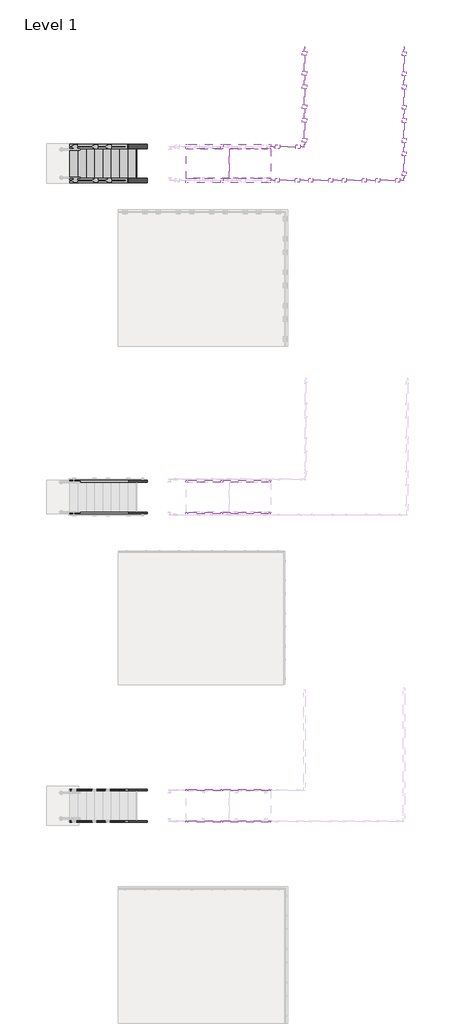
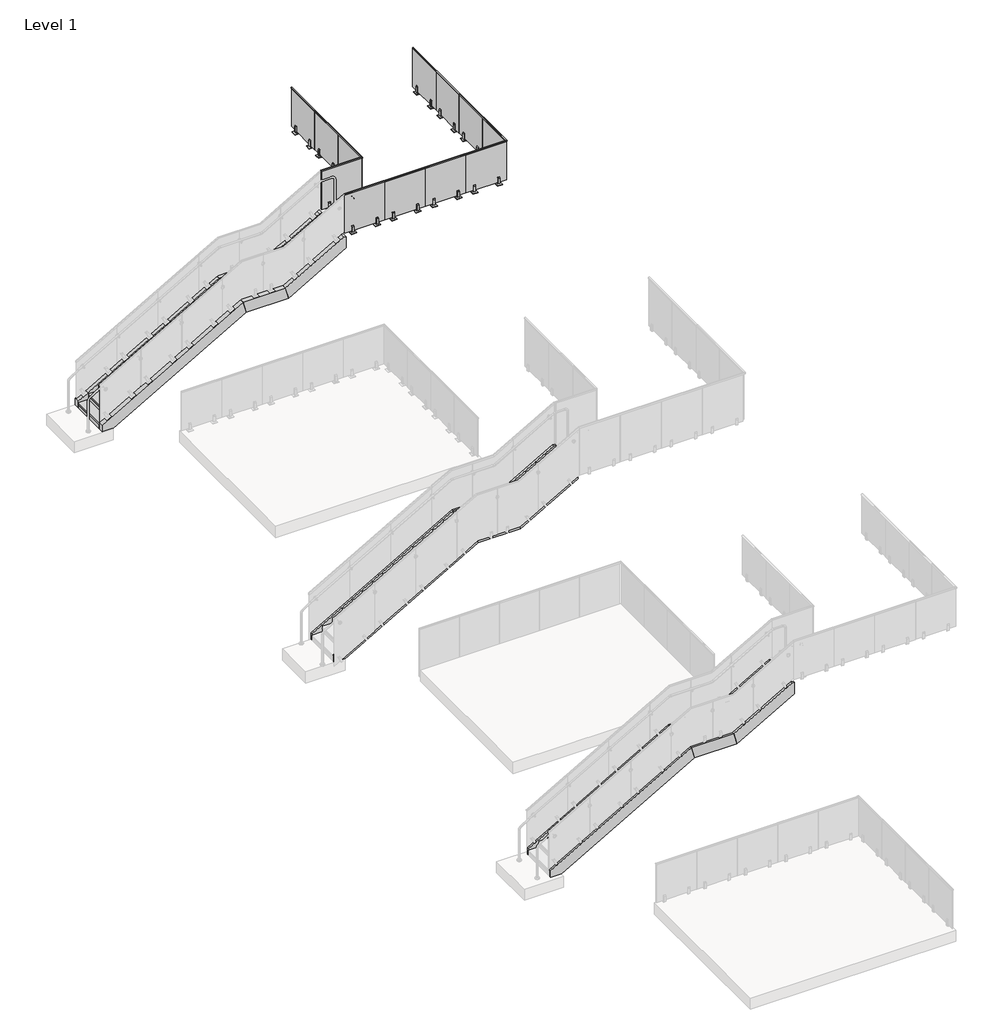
# One storey, part 17 of 17: 18 members, 2 railings, 2 stair flights, 1 slab.
"""IFC4 building model written with IfcOpenShell, lengths in millimetres."""

from ifc_helpers import new_model, si_unit, frame, origin, place, context, project, spatial, polyline, outline, extrude, transform, mapped, element, save
from components import railing_999654d2, railing_03c17f37, non_monolithic_landing_f3ecc431, stair_flight_18f07dfd, stair_flight_3f810ed6

model = new_model("IFC4")

# Units and contexts
model_context = context("Model", 3, world=origin())
ifc_project = project(units=[si_unit("LENGTHUNIT", "METRE", prefix="MILLI")], contexts=[model_context])

# Site, building, storey
site = spatial("IfcSite", under=ifc_project)
building = spatial("IfcBuilding", under=site)
storey = spatial("IfcBuildingStorey", under=building, Name="Level 1", Elevation=0.0)

# Members
placement = place(None, origin())
element("IfcMember", 1, ObjectType="Stringer - 2\" Width", at=placement, inside=storey, context=model_context, shape_type="SweptSolid", body=[
    extrude(outline(polyline([(179.6072535, 24306.0112561), (0.0, 24306.0112561), (0.0, 24580.4449345), (1916.7928571, 27934.8324345), (2208.8928571, 27857.2610625), (179.6072535, 24306.0112561)])), frame((0.0, -21111.4617549, 0.0), z_axis=(0.0, 1.0, 0.0), x_axis=(0.0, 0.0, 1.0)), (0.0, 0.0, 1.0), 50.8),
])
element("IfcMember", 2, ObjectType="Stringer - 2\" Width", at=placement, inside=storey, context=model_context, shape_type="SweptSolid", body=[
    extrude(outline(polyline([(179.6072535, 24306.0112561), (0.0, 24306.0112561), (0.0, 24580.4449345), (1916.7928571, 27934.8324345), (2208.8928571, 27857.2610625), (179.6072535, 24306.0112561)])), frame((0.0, -22076.6617549, 0.0), z_axis=(0.0, 1.0, 0.0), x_axis=(0.0, 0.0, 1.0)), (0.0, 0.0, 1.0), 50.8),
])
element("IfcMember", 3, ObjectType="Stringer - 2\" Width", at=placement, inside=storey, context=model_context, shape_type="SweptSolid", body=[
    extrude(outline(polyline([(2208.8928571, 28924.0610625), (1916.7928571, 29001.6324345), (2746.037898, 30452.8112561), (3048.0, 30452.8112561), (3048.0, 30392.4985625), (2208.8928571, 28924.0610625)])), frame((0.0, -21111.4617549, 0.0), z_axis=(0.0, 1.0, 0.0), x_axis=(0.0, 0.0, 1.0)), (0.0, 0.0, 1.0), 50.8),
])
element("IfcMember", 4, ObjectType="Stringer - 2\" Width", at=placement, inside=storey, context=model_context, shape_type="SweptSolid", body=[
    extrude(outline(polyline([(2208.8928571, 28924.0610625), (1916.7928571, 29001.6324345), (2746.037898, 30452.8112561), (3048.0, 30452.8112561), (3048.0, 30392.4985625), (2208.8928571, 28924.0610625)])), frame((0.0, -22076.6617549, 0.0), z_axis=(0.0, 1.0, 0.0), x_axis=(0.0, 0.0, 1.0)), (0.0, 0.0, 1.0), 50.8),
])
element("IfcMember", 5, ObjectType="Stringer - 2\" Width", at=placement, inside=storey, context=model_context, shape_type="SweptSolid", body=[
    extrude(outline(polyline([(1916.7928571, 29001.6324345), (2208.8928571, 28924.0610625), (2208.8928571, 27857.2610625), (1916.7928571, 27934.8324345), (1916.7928571, 29001.6324345)])), frame((0.0, -21111.4617549, 0.0), z_axis=(0.0, 1.0, 0.0), x_axis=(0.0, 0.0, 1.0)), (0.0, 0.0, 1.0), 50.8),
])
element("IfcMember", 6, ObjectType="Stringer - 2\" Width", at=placement, inside=storey, context=model_context, shape_type="SweptSolid", body=[
    extrude(outline(polyline([(2208.8928571, 27857.2610625), (1916.7928571, 27934.8324345), (1916.7928571, 29001.6324345), (2208.8928571, 28924.0610625), (2208.8928571, 27857.2610625)])), frame((0.0, -22076.6617549, 0.0), z_axis=(0.0, 1.0, 0.0), x_axis=(0.0, 0.0, 1.0)), (0.0, 0.0, 1.0), 50.8),
])
element("IfcMember", 7, ObjectType="Stringer - 2\" Width", at=placement, inside=storey, context=model_context, shape_type="SweptSolid", body=[
    extrude(outline(polyline([(179.6072535, 24306.0112561), (0.0, 24306.0112561), (0.0, 24580.4449345), (1916.7928571, 27934.8324345), (2208.8928571, 27857.2610625), (179.6072535, 24306.0112561)])), frame((0.0, -11662.6617549, 0.0), z_axis=(0.0, 1.0, 0.0), x_axis=(0.0, 0.0, 1.0)), (0.0, 0.0, 1.0), 50.8),
])
element("IfcMember", 8, ObjectType="Stringer - 2\" Width", at=placement, inside=storey, context=model_context, shape_type="SweptSolid", body=[
    extrude(outline(polyline([(179.6072535, 24306.0112561), (0.0, 24306.0112561), (0.0, 24580.4449345), (1916.7928571, 27934.8324345), (2208.8928571, 27857.2610625), (179.6072535, 24306.0112561)])), frame((0.0, -12627.8617549, 0.0), z_axis=(0.0, 1.0, 0.0), x_axis=(0.0, 0.0, 1.0)), (0.0, 0.0, 1.0), 50.8),
])
element("IfcMember", 9, ObjectType="Stringer - 2\" Width", at=placement, inside=storey, context=model_context, shape_type="SweptSolid", body=[
    extrude(outline(polyline([(2208.8928571, 28924.0610625), (1916.7928571, 29001.6324345), (2746.037898, 30452.8112561), (3048.0, 30452.8112561), (3048.0, 30392.4985625), (2208.8928571, 28924.0610625)])), frame((0.0, -11662.6617549, 0.0), z_axis=(0.0, 1.0, 0.0), x_axis=(0.0, 0.0, 1.0)), (0.0, 0.0, 1.0), 50.8),
])
element("IfcMember", 10, ObjectType="Stringer - 2\" Width", at=placement, inside=storey, context=model_context, shape_type="SweptSolid", body=[
    extrude(outline(polyline([(2208.8928571, 28924.0610625), (1916.7928571, 29001.6324345), (2746.037898, 30452.8112561), (3048.0, 30452.8112561), (3048.0, 30392.4985625), (2208.8928571, 28924.0610625)])), frame((0.0, -12627.8617549, 0.0), z_axis=(0.0, 1.0, 0.0), x_axis=(0.0, 0.0, 1.0)), (0.0, 0.0, 1.0), 50.8),
])
element("IfcMember", 11, ObjectType="Stringer - 2\" Width", at=placement, inside=storey, context=model_context, shape_type="SweptSolid", body=[
    extrude(outline(polyline([(1916.7928571, 29001.6324345), (2208.8928571, 28924.0610625), (2208.8928571, 27857.2610625), (1916.7928571, 27934.8324345), (1916.7928571, 29001.6324345)])), frame((0.0, -11662.6617549, 0.0), z_axis=(0.0, 1.0, 0.0), x_axis=(0.0, 0.0, 1.0)), (0.0, 0.0, 1.0), 50.8),
])
element("IfcMember", 12, ObjectType="Stringer - 2\" Width", at=placement, inside=storey, context=model_context, shape_type="SweptSolid", body=[
    extrude(outline(polyline([(2208.8928571, 27857.2610625), (1916.7928571, 27934.8324345), (1916.7928571, 29001.6324345), (2208.8928571, 28924.0610625), (2208.8928571, 27857.2610625)])), frame((0.0, -12627.8617549, 0.0), z_axis=(0.0, 1.0, 0.0), x_axis=(0.0, 0.0, 1.0)), (0.0, 0.0, 1.0), 50.8),
])
element("IfcMember", 13, ObjectType="Stringer - 2\" Width", at=placement, inside=storey, context=model_context, shape_type="SweptSolid", body=[
    extrude(outline(polyline([(179.6072535, 24306.0112561), (0.0, 24306.0112561), (0.0, 24580.4449345), (1916.7928571, 27934.8324345), (2208.8928571, 27857.2610625), (179.6072535, 24306.0112561)])), frame((0.0, -1451.8617549, 0.0), z_axis=(0.0, 1.0, 0.0), x_axis=(0.0, 0.0, 1.0)), (0.0, 0.0, 1.0), 127.0),
])
element("IfcMember", 14, ObjectType="Stringer - 2\" Width", at=placement, inside=storey, context=model_context, shape_type="SweptSolid", body=[
    extrude(outline(polyline([(179.6072535, 24306.0112561), (0.0, 24306.0112561), (0.0, 24580.4449345), (1916.7928571, 27934.8324345), (2208.8928571, 27857.2610625), (179.6072535, 24306.0112561)])), frame((0.0, -2493.2617549, 0.0), z_axis=(0.0, 1.0, 0.0), x_axis=(0.0, 0.0, 1.0)), (0.0, 0.0, 1.0), 127.0),
])
element("IfcMember", 15, ObjectType="Stringer - 2\" Width", at=placement, inside=storey, context=model_context, shape_type="SweptSolid", body=[
    extrude(outline(polyline([(2208.8928571, 28924.0610625), (1916.7928571, 29001.6324345), (2746.037898, 30452.8112561), (3048.0, 30452.8112561), (3048.0, 30392.4985625), (2208.8928571, 28924.0610625)])), frame((0.0, -1451.8617549, 0.0), z_axis=(0.0, 1.0, 0.0), x_axis=(0.0, 0.0, 1.0)), (0.0, 0.0, 1.0), 127.0),
])
element("IfcMember", 16, ObjectType="Stringer - 2\" Width", at=placement, inside=storey, context=model_context, shape_type="SweptSolid", body=[
    extrude(outline(polyline([(2208.8928571, 28924.0610625), (1916.7928571, 29001.6324345), (2746.037898, 30452.8112561), (3048.0, 30452.8112561), (3048.0, 30392.4985625), (2208.8928571, 28924.0610625)])), frame((0.0, -2493.2617549, 0.0), z_axis=(0.0, 1.0, 0.0), x_axis=(0.0, 0.0, 1.0)), (0.0, 0.0, 1.0), 127.0),
])
element("IfcMember", 17, ObjectType="Stringer - 2\" Width", at=placement, inside=storey, context=model_context, shape_type="SweptSolid", body=[
    extrude(outline(polyline([(1916.7928571, 29001.6324345), (2208.8928571, 28924.0610625), (2208.8928571, 27857.2610625), (1916.7928571, 27934.8324345), (1916.7928571, 29001.6324345)])), frame((0.0, -1451.8617549, 0.0), z_axis=(0.0, 1.0, 0.0), x_axis=(0.0, 0.0, 1.0)), (0.0, 0.0, 1.0), 127.0),
])
element("IfcMember", 18, ObjectType="Stringer - 2\" Width", at=placement, inside=storey, context=model_context, shape_type="SweptSolid", body=[
    extrude(outline(polyline([(2208.8928571, 27857.2610625), (1916.7928571, 27934.8324345), (1916.7928571, 29001.6324345), (2208.8928571, 28924.0610625), (2208.8928571, 27857.2610625)])), frame((0.0, -2493.2617549, 0.0), z_axis=(0.0, 1.0, 0.0), x_axis=(0.0, 0.0, 1.0)), (0.0, 0.0, 1.0), 127.0),
])

# Railings
railing_shape = railing_999654d2(model_context)
element("IfcRailing", 19, ObjectType="VIVA-VISIO-Glass-Concrete Surface Mount-Straight", at=placement, inside=storey, context=model_context, shape_type="MappedRepresentation", body=[
    mapped(railing_shape, transform((0.0, 0.0, 0.0), x_axis=(1.0, 0.0, 0.0), y_axis=(0.0, 1.0, 0.0), z_axis=(0.0, 0.0, 1.0))),
])
railing_2_shape = railing_03c17f37(model_context)
element("IfcRailing", 20, ObjectType="VIVA-VISIO-Glass-Concrete Surface Mount-Straight", at=placement, inside=storey, context=model_context, shape_type="MappedRepresentation", body=[
    mapped(railing_2_shape, transform((0.0, 0.0, 0.0), x_axis=(1.0, 0.0, 0.0), y_axis=(0.0, 1.0, 0.0), z_axis=(0.0, 0.0, 1.0))),
])

# Slab
non_monolithic_landing_shape = non_monolithic_landing_f3ecc431(model_context)
element("IfcSlab", 21, ObjectType="Non-Monolithic Landing", at=placement, inside=storey, context=model_context, shape_type="MappedRepresentation", body=[
    mapped(non_monolithic_landing_shape, transform((0.0, 0.0, 0.0), x_axis=(1.0, 0.0, 0.0), y_axis=(0.0, 1.0, 0.0), z_axis=(0.0, 0.0, 1.0))),
])

# Stair flights
stair_flight_shape = stair_flight_18f07dfd(model_context)
element("IfcStairFlight", 22, ObjectType="2\" Tread 1/4\" Riser", at=placement, inside=storey, context=model_context, shape_type="MappedRepresentation", body=[
    mapped(stair_flight_shape, transform((0.0, 0.0, 0.0), x_axis=(1.0, 0.0, 0.0), y_axis=(0.0, 1.0, 0.0), z_axis=(0.0, 0.0, 1.0))),
])
stair_flight_2_shape = stair_flight_3f810ed6(model_context)
element("IfcStairFlight", 23, ObjectType="2\" Tread 1/4\" Riser", at=placement, inside=storey, context=model_context, shape_type="MappedRepresentation", body=[
    mapped(stair_flight_2_shape, transform((0.0, 0.0, 0.0), x_axis=(1.0, 0.0, 0.0), y_axis=(0.0, 1.0, 0.0), z_axis=(0.0, 0.0, 1.0))),
])

save(model, "model.ifc")
